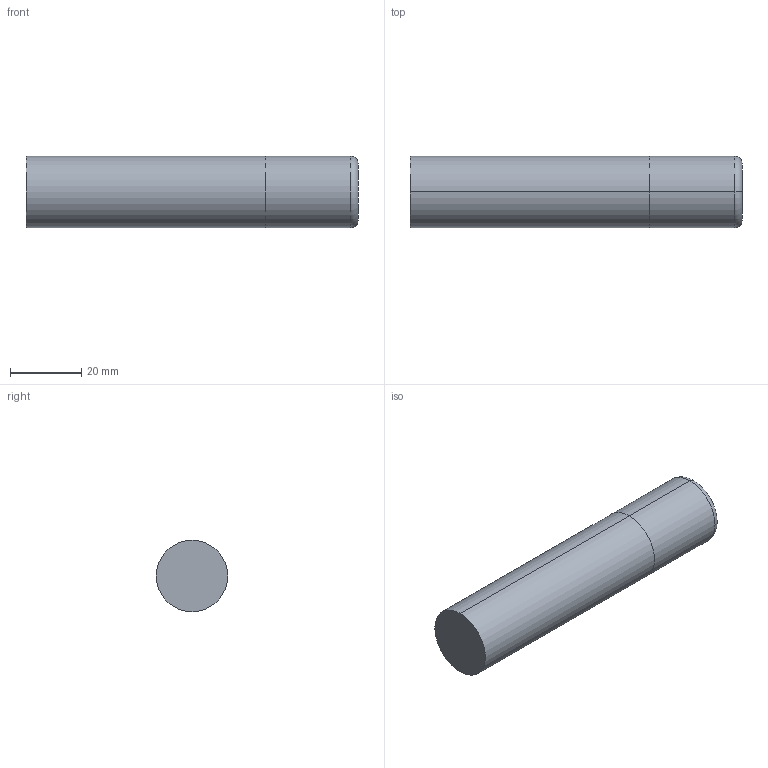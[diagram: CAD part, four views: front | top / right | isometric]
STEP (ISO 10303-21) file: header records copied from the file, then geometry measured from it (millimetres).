
FILE_DESCRIPTION (( 'STEP AP214' ), '1' );
FILE_NAME ('SSIST520M-2.STEP', '2025-05-29T19:31:55', ( '' ), ( '' ), 'SwSTEP 2.0', 'SolidWorks 2023', '' );
FILE_SCHEMA (( 'AUTOMOTIVE_DESIGN' ));
Length unit declared in the file: millimetre
Products named in the file (3): SSIST520M-2; SSI5 Metric CUTTING_SSIST520M-2; SSI5 Metric SHANK_SSIST520M-2
Assembly tree (2 placements, depth 2):
  SSIST520M-2
    SSI5 Metric CUTTING_SSIST520M-2
    SSI5 Metric SHANK_SSIST520M-2
Bounding box: 93 x 20 x 20 mm (x, y, z)
Volume: 29165.3 mm3; surface area: 7044.3 mm2
Topology: 2 solids, 2 shells, 10 faces, 16 edges, 10 vertices
Faces by surface type: cylinder 4, plane 4, torus 2
Entity records: 324 total; most frequent: DIRECTION 58, CARTESIAN_POINT 41, ORIENTED_EDGE 32, AXIS2_PLACEMENT_3D 27, EDGE_CURVE 16, CIRCLE 12, FACE_OUTER_BOUND 10, EDGE_LOOP 10
